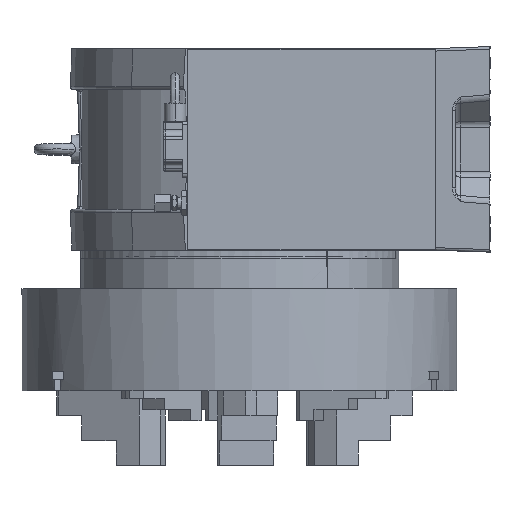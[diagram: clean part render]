
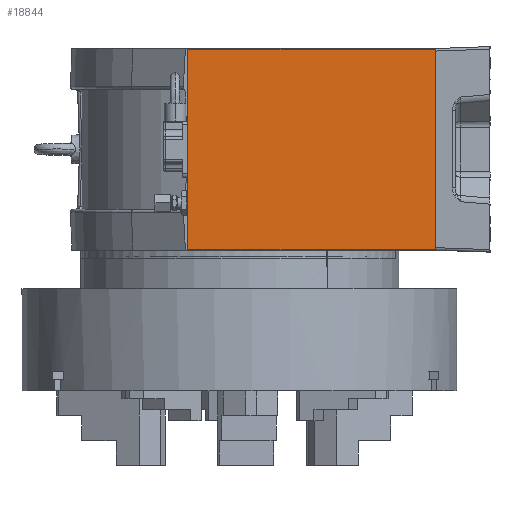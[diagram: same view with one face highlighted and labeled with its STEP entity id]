
A CAD part, left-side view. The second image highlights one B-rep face of the part: STEP entity #18844.
In plain terms, the highlighted planar face has unit normal (-1, 0, 0).
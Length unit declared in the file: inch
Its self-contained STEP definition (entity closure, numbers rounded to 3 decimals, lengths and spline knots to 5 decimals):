
#1364 = VERTEX_POINT ( 'NONE', #62803 ) ;
#1425 = VECTOR ( 'NONE', #55551, 39.37008 ) ;
#2260 = ORIENTED_EDGE ( 'NONE', *, *, #50605, .T. ) ;
#3665 = VECTOR ( 'NONE', #5467, 39.37008 ) ;
#5467 = DIRECTION ( 'NONE',  ( 0., 0., 1. ) ) ;
#9357 = VECTOR ( 'NONE', #62837, 39.37008 ) ;
#12691 = VERTEX_POINT ( 'NONE', #38235 ) ;
#14730 = ORIENTED_EDGE ( 'NONE', *, *, #17762, .F. ) ;
#15159 = CARTESIAN_POINT ( 'NONE',  ( -14.31452, 2.37795, 4.6063 ) ) ;
#17762 = EDGE_CURVE ( 'NONE', #1364, #12691, #39746, .T. ) ;
#18844 = ADVANCED_FACE ( 'NONE', ( #42754 ), #43067, .T. ) ;
#21482 = CARTESIAN_POINT ( 'NONE',  ( -14.31452, -9., -4.6063 ) ) ;
#22393 = VERTEX_POINT ( 'NONE', #21482 ) ;
#23502 = AXIS2_PLACEMENT_3D ( 'NONE', #62756, #47296, #37612 ) ;
#30041 = CARTESIAN_POINT ( 'NONE',  ( -14.31452, -20.17813, -4.6063 ) ) ;
#32391 = CARTESIAN_POINT ( 'NONE',  ( -14.31452, -9., 4.6063 ) ) ;
#37612 = DIRECTION ( 'NONE',  ( 0., -1., 0. ) ) ;
#38235 = CARTESIAN_POINT ( 'NONE',  ( -14.31452, 2.37795, 4.6063 ) ) ;
#39746 = LINE ( 'NONE', #15159, #3665 ) ;
#40385 = LINE ( 'NONE', #30041, #46701 ) ;
#42754 = FACE_OUTER_BOUND ( 'NONE', #55378, .T. ) ;
#43067 = PLANE ( 'NONE',  #23502 ) ;
#43467 = CARTESIAN_POINT ( 'NONE',  ( -14.31452, -9., 4.6063 ) ) ;
#44106 = LINE ( 'NONE', #43467, #9357 ) ;
#44597 = VERTEX_POINT ( 'NONE', #32391 ) ;
#46701 = VECTOR ( 'NONE', #49759, 39.37008 ) ;
#46828 = LINE ( 'NONE', #51661, #1425 ) ;
#47296 = DIRECTION ( 'NONE',  ( -1., 0., 0. ) ) ;
#49254 = ORIENTED_EDGE ( 'NONE', *, *, #49419, .T. ) ;
#49419 = EDGE_CURVE ( 'NONE', #22393, #44597, #44106, .T. ) ;
#49759 = DIRECTION ( 'NONE',  ( 0., 1., 0. ) ) ;
#50605 = EDGE_CURVE ( 'NONE', #44597, #12691, #46828, .T. ) ;
#51661 = CARTESIAN_POINT ( 'NONE',  ( -14.31452, -20.17813, 4.6063 ) ) ;
#54556 = ORIENTED_EDGE ( 'NONE', *, *, #61541, .F. ) ;
#55378 = EDGE_LOOP ( 'NONE', ( #54556, #49254, #2260, #14730 ) ) ;
#55551 = DIRECTION ( 'NONE',  ( 0., 1., 0. ) ) ;
#61541 = EDGE_CURVE ( 'NONE', #22393, #1364, #40385, .T. ) ;
#62756 = CARTESIAN_POINT ( 'NONE',  ( -14.31452, -20.17813, 4.6063 ) ) ;
#62803 = CARTESIAN_POINT ( 'NONE',  ( -14.31452, 2.37795, -4.6063 ) ) ;
#62837 = DIRECTION ( 'NONE',  ( 0., 0., 1. ) ) ;
